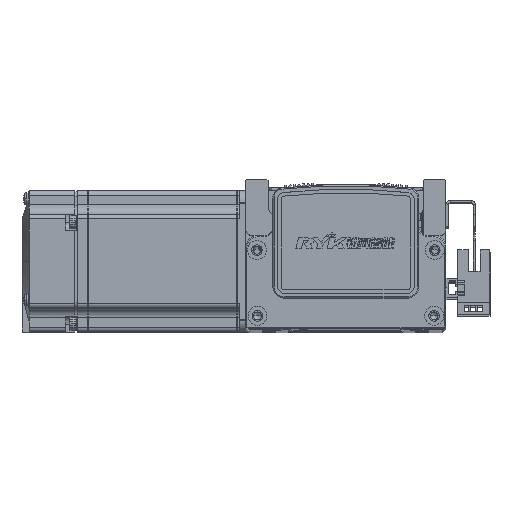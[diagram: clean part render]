
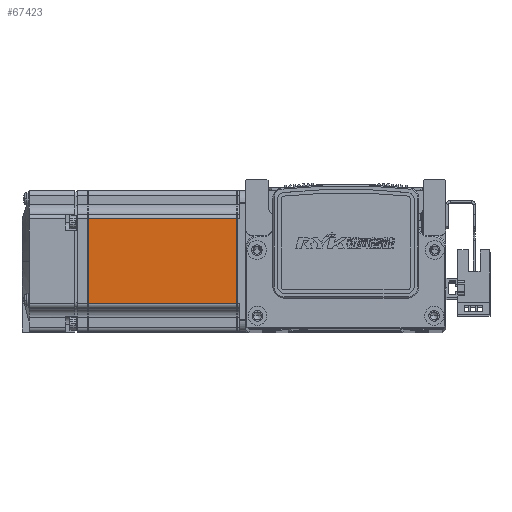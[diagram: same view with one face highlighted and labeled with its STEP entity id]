
A CAD part, top view. The second image highlights one B-rep face of the part: STEP entity #67423.
In plain terms, the highlighted planar face has unit normal (0, 0, 1) as drawn and (0, 0, -1) by its records, which use the part's own axes.
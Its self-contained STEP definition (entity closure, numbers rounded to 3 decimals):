
#2952 = EDGE_LOOP ( 'NONE', ( #75299, #75326, #75278, #75289 ) ) ;
#8506 = DIRECTION ( 'NONE',  ( 0., -1., 0. ) ) ;
#8509 = DIRECTION ( 'NONE',  ( -1., 0., 0. ) ) ;
#8517 = CARTESIAN_POINT ( 'NONE',  ( -7.75, 25., -30. ) ) ;
#8532 = CARTESIAN_POINT ( 'NONE',  ( -6.5, -18., -30. ) ) ;
#8598 = CARTESIAN_POINT ( 'NONE',  ( -70.95, 25., -30. ) ) ;
#8610 = DIRECTION ( 'NONE',  ( 0., 1., 0. ) ) ;
#18320 = VERTEX_POINT ( 'NONE', #74965 ) ;
#18352 = VERTEX_POINT ( 'NONE', #74954 ) ;
#18392 = VERTEX_POINT ( 'NONE', #74949 ) ;
#18492 = VERTEX_POINT ( 'NONE', #75024 ) ;
#41208 = DIRECTION ( 'NONE',  ( 1., 0., 0. ) ) ;
#41226 = CARTESIAN_POINT ( 'NONE',  ( -6.5, 18., -30. ) ) ;
#48653 = AXIS2_PLACEMENT_3D ( 'NONE', #59039, #59020, #58993 ) ;
#58586 = LINE ( 'NONE', #8517, #58705 ) ;
#58688 = LINE ( 'NONE', #8532, #58709 ) ;
#58705 = VECTOR ( 'NONE', #8506, 1000. ) ;
#58709 = VECTOR ( 'NONE', #8509, 1000. ) ;
#58749 = LINE ( 'NONE', #8598, #58774 ) ;
#58774 = VECTOR ( 'NONE', #8610, 1000. ) ;
#58874 = LINE ( 'NONE', #41226, #58912 ) ;
#58912 = VECTOR ( 'NONE', #41208, 1000. ) ;
#58993 = DIRECTION ( 'NONE',  ( -1., 0., 0. ) ) ;
#59014 = PLANE ( 'NONE',  #48653 ) ;
#59020 = DIRECTION ( 'NONE',  ( 0., 0., -1. ) ) ;
#59039 = CARTESIAN_POINT ( 'NONE',  ( -6.5, 25., -30. ) ) ;
#65137 = EDGE_CURVE ( 'NONE', #18492, #18320, #58586, .T. ) ;
#65146 = EDGE_CURVE ( 'NONE', #18320, #18392, #58688, .T. ) ;
#65191 = EDGE_CURVE ( 'NONE', #18392, #18352, #58749, .T. ) ;
#65298 = EDGE_CURVE ( 'NONE', #18352, #18492, #58874, .T. ) ;
#67423 = ADVANCED_FACE ( 'NONE', ( #71112 ), #59014, .T. ) ;
#71112 = FACE_OUTER_BOUND ( 'NONE', #2952, .T. ) ;
#74949 = CARTESIAN_POINT ( 'NONE',  ( -70.95, -18., -30. ) ) ;
#74954 = CARTESIAN_POINT ( 'NONE',  ( -70.95, 18., -30. ) ) ;
#74965 = CARTESIAN_POINT ( 'NONE',  ( -7.75, -18., -30. ) ) ;
#75024 = CARTESIAN_POINT ( 'NONE',  ( -7.75, 18., -30. ) ) ;
#75278 = ORIENTED_EDGE ( 'NONE', *, *, #65191, .T. ) ;
#75289 = ORIENTED_EDGE ( 'NONE', *, *, #65298, .T. ) ;
#75299 = ORIENTED_EDGE ( 'NONE', *, *, #65137, .T. ) ;
#75326 = ORIENTED_EDGE ( 'NONE', *, *, #65146, .T. ) ;
